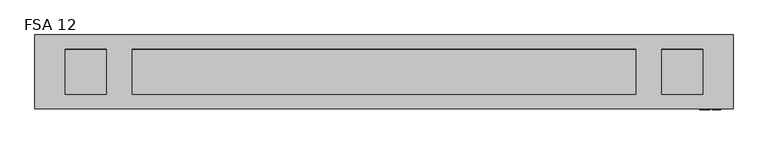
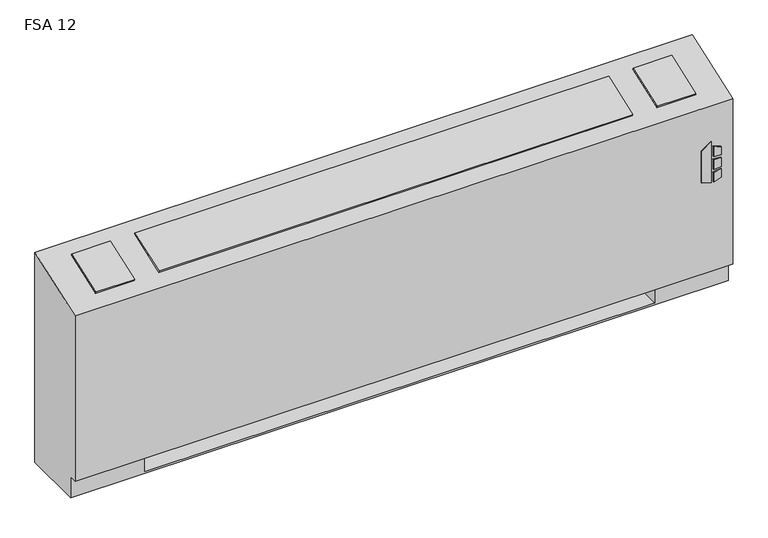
"""IFC4 building model written with IfcOpenShell, lengths in millimetres: proxy geometry, Vertical_Fan_Coil_Unit_-_FSA_-_IEC_-_4-Pipe_TS-FR_RH_2022 : FSA 12."""

from ifc_helpers import new_model, si_unit, point, frame, frame_2d, origin, place, context, project, spatial, polyline, circle_curve, trimmed, segment, composite_curve, outline, extrude, source, transform, mapped, element, save
from ifc_brep_helpers import plane_surface, revolved_surface, advanced_brep


def fsa_12_ab068744(model_context):
    return source(origin(), model_context, "Body", "SolidModel", [
        extrude(outline(polyline([(391.6086829, 1128.7868862), (381.6606126, 1160.9602728), (523.831537, 1160.9602728), (500.8095309, 1128.7868862), (391.6086829, 1128.7868862)])), frame((0.0, 12.7, 0.0), z_axis=(0.0, 1.0, 0.0), x_axis=(0.0, 0.0, 1.0)), (0.0, 0.0, 1.0), 3.175),
        extrude(outline(polyline([(470.6079683, 1167.7186058), (467.4055757, 1193.8), (496.6344168, 1193.8), (504.6988318, 1167.7186058), (470.6079683, 1167.7186058)])), frame((0.0, 12.7, 0.0), z_axis=(0.0, 1.0, 0.0), x_axis=(0.0, 0.0, 1.0)), (0.0, 0.0, 1.0), 3.175),
        extrude(outline(polyline([(418.7444414, 1193.8), (415.0789404, 1167.7186058), (381.6606126, 1167.7186058), (390.2948498, 1193.8), (418.7444414, 1193.8)])), frame((0.0, 12.7, 0.0), z_axis=(0.0, 1.0, 0.0), x_axis=(0.0, 0.0, 1.0)), (0.0, 0.0, 1.0), 3.175),
        extrude(outline(polyline([(458.0596028, 1193.8), (460.3414292, 1167.7186058), (424.4038806, 1167.7186058), (427.1451456, 1193.8), (458.0596028, 1193.8)])), frame((0.0, 12.7, 0.0), z_axis=(0.0, 1.0, 0.0), x_axis=(0.0, 0.0, 1.0)), (0.0, 0.0, 1.0), 3.175),
        extrude(outline(polyline([(-806.45, 81.534), (-806.45, 223.266), (-685.8, 223.266), (-685.8, 81.534), (-806.45, 81.534)])), frame((0.0, 0.0, 327.025), z_axis=(0.0, 0.0, 1.0), x_axis=(1.0, 0.0, 0.0)), (0.0, 0.0, 1.0), 260.35),
        extrude(outline(composite_curve([segment(trimmed(circle_curve(frame_2d((1054.1, 130.175)), 9.525), [point((1044.575, 130.175))], [point((1063.625, 130.175))], False, "CARTESIAN"), True, "CONTINUOUS"), segment(trimmed(circle_curve(frame_2d((1054.1, 130.175)), 9.525), [point((1063.625, 130.175))], [point((1044.575, 130.175))], False, "CARTESIAN"), True, "CONTINUOUS")], self_intersect=False)), frame((0.0, 0.0, 101.6), z_axis=(0.0, 0.0, 1.0), x_axis=(1.0, 0.0, 0.0)), (0.0, 0.0, 1.0), 25.4),
        extrude(outline(polyline([(1155.7, 196.85), (1155.7, 63.5), (990.6, 63.5), (990.6, 196.85), (1155.7, 196.85)])), frame((0.0, 0.0, 127.0), z_axis=(0.0, 0.0, 1.0), x_axis=(1.0, 0.0, 0.0)), (0.0, 0.0, 1.0), 50.8),
        extrude(outline(polyline([(0.0, -146.0500001), (0.0, 0.0), (127.0, 0.0), (127.0, -146.0500001), (0.0, -146.0500001)])), frame((-832.993, 200.4217127, 714.3418685), z_axis=(0.0, -0.3396444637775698, 0.9405538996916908), x_axis=(1.0, 0.0, 0.0)), (0.0, 0.0, 1.0), 6.35),
        extrude(outline(polyline([(0.0, -146.0500001), (0.0, 0.0), (1555.75, 0.0), (1555.75, -146.0500001), (0.0, -146.0500001)])), frame((930.275, 63.0538156, 664.7367945), z_axis=(0.0, -0.33964446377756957, 0.9405538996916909), x_axis=(-1.0, 0.0, 0.0)), (0.0, 0.0, 1.0), 6.35),
        extrude(outline(polyline([(0.0, -146.0500001), (0.0, 0.0), (127.0, 0.0), (127.0, -146.0500001), (0.0, -146.0500001)])), frame((1137.793, 63.0538156, 664.7367945), z_axis=(0.0, -0.3396444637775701, 0.9405538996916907), x_axis=(-1.0, 0.0, 0.0)), (0.0, 0.0, 1.0), 6.35),
        extrude(outline(composite_curve([segment(trimmed(circle_curve(frame_2d((109.0168, 457.2)), 7.9375), [point((109.0168, 465.1375))], [point((109.0168, 449.2625))], False, "CARTESIAN"), True, "CONTINUOUS"), segment(trimmed(circle_curve(frame_2d((109.0168, 457.2)), 7.9375), [point((109.0168, 449.2625))], [point((109.0168, 465.1375))], False, "CARTESIAN"), True, "CONTINUOUS")], self_intersect=False)), frame((990.6, 0.0, 0.0), z_axis=(1.0, 0.0, 0.0), x_axis=(0.0, 1.0, 0.0)), (0.0, 0.0, 1.0), 50.8),
        extrude(outline(composite_curve([segment(trimmed(circle_curve(frame_2d((172.085, 460.0194)), 7.9375), [point((172.085, 467.9569))], [point((172.085, 452.0819))], False, "CARTESIAN"), True, "CONTINUOUS"), segment(trimmed(circle_curve(frame_2d((172.085, 460.0194)), 7.9375), [point((172.085, 452.0819))], [point((172.085, 467.9569))], False, "CARTESIAN"), True, "CONTINUOUS")], self_intersect=False)), frame((990.6, 0.0, 0.0), z_axis=(1.0, 0.0, 0.0), x_axis=(0.0, 1.0, 0.0)), (0.0, 0.0, 1.0), 50.8),
        extrude(outline(composite_curve([segment(trimmed(circle_curve(frame_2d((130.175, 554.99)), 7.9502), [point((130.175, 562.9402))], [point((130.175, 547.0398))], False, "CARTESIAN"), True, "CONTINUOUS"), segment(trimmed(circle_curve(frame_2d((130.175, 554.99)), 7.9502), [point((130.175, 547.0398))], [point((130.175, 562.9402))], False, "CARTESIAN"), True, "CONTINUOUS")], self_intersect=False)), frame((990.6, 0.0, 0.0), z_axis=(1.0, 0.0, 0.0), x_axis=(0.0, 1.0, 0.0)), (0.0, 0.0, 1.0), 50.8),
        extrude(outline(composite_curve([segment(trimmed(circle_curve(frame_2d((53.975, 416.56)), 7.9502), [point((53.975, 424.5102))], [point((53.975, 408.6098))], False, "CARTESIAN"), True, "CONTINUOUS"), segment(trimmed(circle_curve(frame_2d((53.975, 416.56)), 7.9502), [point((53.975, 408.6098))], [point((53.975, 424.5102))], False, "CARTESIAN"), True, "CONTINUOUS")], self_intersect=False)), frame((990.6, 0.0, 0.0), z_axis=(1.0, 0.0, 0.0), x_axis=(0.0, 1.0, 0.0)), (0.0, 0.0, 1.0), 50.8),
        advanced_brep(
        [(-927.1, 244.475, 0.0), (1231.9, 244.475, 0.0), (1231.9, 41.275, 0.0), (-927.1, 41.275, 0.0), (-927.1, 244.475, 730.25), (1231.9, 244.475, 730.25), (990.6, 244.475, 73.025), (1219.2, 244.475, 73.025), (1219.2, 244.475, 654.05), (990.6, 244.475, 654.05), (990.6, 244.475, 414.8650565), (1019.175, 244.475, 414.8650565), (1019.175, 244.475, 385.2349435), (990.6, 244.475, 385.2349435), (990.6, 244.475, 287.3375), (1019.175, 244.475, 287.3375), (1019.175, 244.475, 258.7625), (990.6, 244.475, 258.7625), (990.6, 244.475, 141.2875), (1019.175, 244.475, 141.2875), (1019.175, 244.475, 112.7125), (990.6, 244.475, 112.7125), (-685.8, 244.475, 654.05), (-914.4, 244.475, 654.05), (-914.4, 244.475, 73.025), (-685.8, 244.475, 73.025), (-685.8, 244.475, 112.7125), (-714.375, 244.475, 112.7125), (-714.375, 244.475, 141.2875), (-685.8, 244.475, 141.2875), (-685.8, 244.475, 258.7625), (-714.375, 244.475, 258.7625), (-714.375, 244.475, 287.3375), (-685.8, 244.475, 287.3375), (-685.8, 244.475, 385.2349435), (-714.375, 244.475, 385.2349435), (-714.375, 244.475, 414.8650565), (-685.8, 244.475, 414.8650565), (1008.8626, 244.475, 127.0), (997.7374, 244.475, 127.0), (1008.8626, 244.475, 400.05), (997.7374, 244.475, 400.05), (1008.8626, 244.475, 273.05), (997.7374, 244.475, 273.05), (-692.9374, 244.475, 127.0), (-704.0626, 244.475, 127.0), (-692.9374, 244.475, 273.05), (-704.0626, 244.475, 273.05), (-692.9374, 244.475, 400.05), (-704.0626, 244.475, 400.05), (-927.1, 41.275, 73.025), (-927.1, 15.875, 73.025), (-927.1, 15.875, 647.7), (1231.9, 15.875, 73.025), (1231.9, 15.875, 647.7), (1231.9, 41.275, 73.025), (-685.8, 41.275, 73.025), (-685.8, 225.425, 73.025), (990.6, 225.425, 73.025), (990.6, 41.275, 73.025), (990.6, 41.275, 6.35), (-685.8, 41.275, 6.35), (990.6, 41.275, 654.05), (1219.2, 41.275, 654.05), (1219.2, 41.275, 73.025), (990.6, 41.275, 73.025), (-685.8, 41.275, 654.05), (-685.8, 41.275, 73.025), (-914.4, 41.275, 73.025), (-914.4, 41.275, 654.05), (990.6, 225.425, 73.025), (990.6, 238.125, 112.7125), (990.6, 238.125, 141.2875), (990.6, 238.125, 258.7625), (990.6, 238.125, 287.3375), (990.6, 238.125, 385.2349435), (990.6, 238.125, 414.8650565), (-685.8, 225.425, 73.025), (-685.8, 238.125, 414.8650565), (-685.8, 238.125, 385.2349435), (-685.8, 238.125, 287.3375), (-685.8, 238.125, 258.7625), (-685.8, 238.125, 141.2875), (-685.8, 238.125, 112.7125), (-685.8, 225.425, 6.35), (990.6, 225.425, 6.35), (1019.175, 238.125, 112.7125), (1019.175, 238.125, 141.2875), (997.7374, 238.125, 127.0), (1008.8626, 238.125, 127.0), (1019.175, 238.125, 258.7625), (1019.175, 238.125, 287.3375), (997.7374, 238.125, 273.05), (1008.8626, 238.125, 273.05), (1019.175, 238.125, 385.2349435), (1019.175, 238.125, 414.8650565), (997.7374, 238.125, 400.05), (1008.8626, 238.125, 400.05), (-714.375, 238.125, 141.2875), (-714.375, 238.125, 112.7125), (-704.0626, 238.125, 127.0), (-692.9374, 238.125, 127.0), (-714.375, 238.125, 287.3375), (-714.375, 238.125, 258.7625), (-704.0626, 238.125, 273.05), (-692.9374, 238.125, 273.05), (-714.375, 238.125, 414.8650565), (-714.375, 238.125, 385.2349435), (-704.0626, 238.125, 400.05), (-692.9374, 238.125, 400.05)],
        [
            (0, 1),
            (1, 2),
            (2, 3),
            (3, 0),
            (0, 4),
            (4, 5),
            (5, 1),
            (6, 7),
            (7, 8),
            (8, 9),
            (9, 10),
            (10, 11),
            (11, 12),
            (12, 13),
            (13, 14),
            (14, 15),
            (15, 16),
            (16, 17),
            (17, 18),
            (18, 19),
            (19, 20),
            (20, 21),
            (21, 6),
            (22, 23),
            (23, 24),
            (24, 25),
            (25, 26),
            (26, 27),
            (27, 28),
            (28, 29),
            (29, 30),
            (30, 31),
            (31, 32),
            (32, 33),
            (33, 34),
            (34, 35),
            (35, 36),
            (36, 37),
            (37, 22),
            (38, 39, circle_curve(frame((1003.3, 244.475, 127.0), z_axis=(0.0, -1.0, 0.0), x_axis=(-1.0, 0.0, 0.0)), 5.5626)),
            (39, 38, circle_curve(frame((1003.3, 244.475, 127.0), z_axis=(0.0, -1.0, 0.0), x_axis=(-1.0, 0.0, 0.0)), 5.5626)),
            (40, 41, circle_curve(frame((1003.3, 244.475, 400.05), z_axis=(0.0, -1.0, 0.0), x_axis=(-1.0, 0.0, 0.0)), 5.5626)),
            (41, 40, circle_curve(frame((1003.3, 244.475, 400.05), z_axis=(0.0, -1.0, 0.0), x_axis=(-1.0, 0.0, 0.0)), 5.5626)),
            (42, 43, circle_curve(frame((1003.3, 244.475, 273.05), z_axis=(0.0, -1.0, 0.0), x_axis=(-1.0, 0.0, 0.0)), 5.5626)),
            (43, 42, circle_curve(frame((1003.3, 244.475, 273.05), z_axis=(0.0, -1.0, 0.0), x_axis=(-1.0, 0.0, 0.0)), 5.5626)),
            (44, 45, circle_curve(frame((-698.5, 244.475, 127.0), z_axis=(0.0, -1.0, 0.0), x_axis=(-1.0, 0.0, 0.0)), 5.5626)),
            (45, 44, circle_curve(frame((-698.5, 244.475, 127.0), z_axis=(0.0, -1.0, 0.0), x_axis=(-1.0, 0.0, 0.0)), 5.5626)),
            (46, 47, circle_curve(frame((-698.5, 244.475, 273.05), z_axis=(0.0, -1.0, 0.0), x_axis=(-1.0, 0.0, 0.0)), 5.5626)),
            (47, 46, circle_curve(frame((-698.5, 244.475, 273.05), z_axis=(0.0, -1.0, 0.0), x_axis=(-1.0, 0.0, 0.0)), 5.5626)),
            (48, 49, circle_curve(frame((-698.5, 244.475, 400.05), z_axis=(0.0, -1.0, 0.0), x_axis=(-1.0, 0.0, 0.0)), 5.5626)),
            (49, 48, circle_curve(frame((-698.5, 244.475, 400.05), z_axis=(0.0, -1.0, 0.0), x_axis=(-1.0, 0.0, 0.0)), 5.5626)),
            (3, 50),
            (50, 51),
            (51, 52),
            (52, 4),
            (51, 53),
            (53, 54),
            (54, 52),
            (5, 54),
            (53, 55),
            (55, 2),
            (50, 56),
            (56, 57),
            (57, 58),
            (58, 59),
            (59, 55),
            (59, 60),
            (60, 61),
            (61, 56),
            (62, 63),
            (63, 64),
            (64, 65),
            (65, 62),
            (66, 67),
            (67, 68),
            (68, 69),
            (69, 66),
            (65, 70),
            (70, 6),
            (21, 71),
            (71, 72),
            (72, 18),
            (17, 73),
            (73, 74),
            (74, 14),
            (13, 75),
            (75, 76),
            (76, 10),
            (9, 62),
            (64, 7),
            (63, 8),
            (69, 23),
            (22, 66),
            (68, 24),
            (67, 77),
            (77, 25),
            (37, 78),
            (78, 79),
            (79, 34),
            (33, 80),
            (80, 81),
            (81, 30),
            (29, 82),
            (82, 83),
            (83, 26),
            (57, 84),
            (84, 85),
            (85, 58),
            (85, 60),
            (84, 61),
            (71, 86),
            (86, 87),
            (87, 72),
            (88, 89, circle_curve(frame((1003.3, 238.125, 127.0), z_axis=(0.0, 1.0, 0.0), x_axis=(-1.0, 0.0, 0.0)), 5.5626)),
            (89, 88, circle_curve(frame((1003.3, 238.125, 127.0), z_axis=(0.0, 1.0, 0.0), x_axis=(-1.0, 0.0, 0.0)), 5.5626)),
            (73, 90),
            (90, 91),
            (91, 74),
            (92, 93, circle_curve(frame((1003.3, 238.125, 273.05), z_axis=(0.0, 1.0, 0.0), x_axis=(-1.0, 0.0, 0.0)), 5.5626)),
            (93, 92, circle_curve(frame((1003.3, 238.125, 273.05), z_axis=(0.0, 1.0, 0.0), x_axis=(-1.0, 0.0, 0.0)), 5.5626)),
            (75, 94),
            (94, 95),
            (95, 76),
            (96, 97, circle_curve(frame((1003.3, 238.125, 400.05), z_axis=(0.0, 1.0, 0.0), x_axis=(-1.0, 0.0, 0.0)), 5.5626)),
            (97, 96, circle_curve(frame((1003.3, 238.125, 400.05), z_axis=(0.0, 1.0, 0.0), x_axis=(-1.0, 0.0, 0.0)), 5.5626)),
            (98, 99),
            (99, 83),
            (82, 98),
            (100, 101, circle_curve(frame((-698.5, 238.125, 127.0), z_axis=(0.0, 1.0, 0.0), x_axis=(-1.0, 0.0, 0.0)), 5.5626)),
            (101, 100, circle_curve(frame((-698.5, 238.125, 127.0), z_axis=(0.0, 1.0, 0.0), x_axis=(-1.0, 0.0, 0.0)), 5.5626)),
            (102, 103),
            (103, 81),
            (80, 102),
            (104, 105, circle_curve(frame((-698.5, 238.125, 273.05), z_axis=(0.0, 1.0, 0.0), x_axis=(-1.0, 0.0, 0.0)), 5.5626)),
            (105, 104, circle_curve(frame((-698.5, 238.125, 273.05), z_axis=(0.0, 1.0, 0.0), x_axis=(-1.0, 0.0, 0.0)), 5.5626)),
            (106, 107),
            (107, 79),
            (78, 106),
            (108, 109, circle_curve(frame((-698.5, 238.125, 400.05), z_axis=(0.0, 1.0, 0.0), x_axis=(-1.0, 0.0, 0.0)), 5.5626)),
            (109, 108, circle_curve(frame((-698.5, 238.125, 400.05), z_axis=(0.0, 1.0, 0.0), x_axis=(-1.0, 0.0, 0.0)), 5.5626)),
            (87, 19),
            (86, 20),
            (91, 15),
            (90, 16),
            (95, 11),
            (94, 12),
            (28, 98),
            (99, 27),
            (32, 102),
            (103, 31),
            (36, 106),
            (107, 35),
            (88, 39),
            (38, 89),
            (96, 41),
            (40, 97),
            (92, 43),
            (42, 93),
            (100, 45),
            (44, 101),
            (104, 47),
            (46, 105),
            (108, 49),
            (48, 109),
        ],
        [
            plane_surface(frame((-927.1, 244.475, 0.0), z_axis=(0.0, 0.0, -1.0), x_axis=(1.0, 0.0, 0.0))),
            plane_surface(frame((1231.9, 244.475, 730.25), z_axis=(0.0, 1.0, 0.0), x_axis=(0.0, 0.0, -1.0))),
            plane_surface(frame((-927.1, 244.475, 730.25), z_axis=(-1.0, 0.0, 0.0), x_axis=(0.0, 0.0, -1.0))),
            plane_surface(frame((-927.1, 15.875, 730.25), z_axis=(0.0, -1.0, 0.0), x_axis=(0.0, 0.0, -1.0))),
            plane_surface(frame((1231.9, 15.875, 730.25), z_axis=(1.0, 0.0, 0.0), x_axis=(0.0, 0.0, -1.0))),
            plane_surface(frame((-927.1, 15.875, 73.025), z_axis=(0.0, 0.0, -1.0), x_axis=(1.0, 0.0, 0.0))),
            plane_surface(frame((-927.1, 41.275, 73.025), z_axis=(0.0, -1.0, 0.0), x_axis=(1.0, 0.0, 0.0))),
            plane_surface(frame((990.6, 41.275, 654.05), z_axis=(0.0, 1.0, 0.0), x_axis=(0.0, 0.0, -1.0))),
            plane_surface(frame((990.6, 41.275, 654.05), z_axis=(1.0, 0.0, 0.0), x_axis=(0.0, 1.0, 0.0))),
            plane_surface(frame((990.6, 41.275, 73.025), z_axis=(0.0, 0.0, 1.0), x_axis=(0.0, 1.0, 0.0))),
            plane_surface(frame((1219.2, 41.275, 73.025), z_axis=(-1.0, 0.0, 0.0), x_axis=(0.0, 1.0, 0.0))),
            plane_surface(frame((1219.2, 41.275, 654.05), z_axis=(0.0, 0.0, -1.0), x_axis=(0.0, 1.0, 0.0))),
            plane_surface(frame((-685.8, 41.275, 654.05), z_axis=(0.0, 0.0, -1.0), x_axis=(0.0, 1.0, 0.0))),
            plane_surface(frame((-914.4, 41.275, 654.05), z_axis=(1.0, 0.0, 0.0), x_axis=(0.0, 1.0, 0.0))),
            plane_surface(frame((-914.4, 41.275, 73.025), z_axis=(0.0, 0.0, 1.0), x_axis=(0.0, 1.0, 0.0))),
            plane_surface(frame((-685.8, 41.275, 73.025), z_axis=(-1.0, 0.0, 0.0), x_axis=(0.0, 1.0, 0.0))),
            plane_surface(frame((990.6, 225.425, 73.025), z_axis=(0.0, -1.0, 0.0), x_axis=(0.0, 0.0, -1.0))),
            plane_surface(frame((990.6, 225.425, 73.025), z_axis=(-1.0, 0.0, 0.0), x_axis=(0.0, -1.0, 0.0))),
            plane_surface(frame((990.6, 225.425, 6.35), z_axis=(0.0, 0.0, 1.0), x_axis=(0.0, -1.0, 0.0))),
            plane_surface(frame((-685.8, 225.425, 6.35), z_axis=(1.0, 0.0, 0.0), x_axis=(0.0, -1.0, 0.0))),
            plane_surface(frame((1019.175, 238.125, 141.2875), z_axis=(0.0, -1.0, 0.0), x_axis=(-1.0, 0.0, 0.0))),
            plane_surface(frame((990.6, 244.475, 141.2875), z_axis=(0.0, 0.0, 1.0), x_axis=(0.0, -1.0, 0.0))),
            plane_surface(frame((1019.175, 244.475, 141.2875), z_axis=(1.0, 0.0, 0.0), x_axis=(0.0, -1.0, 0.0))),
            plane_surface(frame((1019.175, 244.475, 112.7125), z_axis=(0.0, 0.0, -1.0), x_axis=(0.0, -1.0, 0.0))),
            plane_surface(frame((990.6, 244.475, 287.3375), z_axis=(0.0, 0.0, 1.0), x_axis=(0.0, -1.0, 0.0))),
            plane_surface(frame((1019.175, 244.475, 287.3375), z_axis=(1.0, 0.0, 0.0), x_axis=(0.0, -1.0, 0.0))),
            plane_surface(frame((1019.175, 244.475, 258.7625), z_axis=(0.0, 0.0, -1.0), x_axis=(0.0, -1.0, 0.0))),
            plane_surface(frame((990.6, 244.475, 414.8650565), z_axis=(0.0, 0.0, 1.0), x_axis=(0.0, -1.0, 0.0))),
            plane_surface(frame((1019.175, 244.475, 414.8650565), z_axis=(1.0, 0.0, 0.0), x_axis=(0.0, -1.0, 0.0))),
            plane_surface(frame((1019.175, 244.475, 385.2349435), z_axis=(0.0, 0.0, -1.0), x_axis=(0.0, -1.0, 0.0))),
            plane_surface(frame((-714.375, 244.475, 141.2875), z_axis=(0.0, 0.0, 1.0), x_axis=(0.0, -1.0, 0.0))),
            plane_surface(frame((-685.8, 244.475, 112.7125), z_axis=(0.0, 0.0, -1.0), x_axis=(0.0, -1.0, 0.0))),
            plane_surface(frame((-714.375, 244.475, 112.7125), z_axis=(-1.0, 0.0, 0.0), x_axis=(0.0, -1.0, 0.0))),
            plane_surface(frame((-714.375, 244.475, 287.3375), z_axis=(0.0, 0.0, 1.0), x_axis=(0.0, -1.0, 0.0))),
            plane_surface(frame((-685.8, 244.475, 258.7625), z_axis=(0.0, 0.0, -1.0), x_axis=(0.0, -1.0, 0.0))),
            plane_surface(frame((-714.375, 244.475, 258.7625), z_axis=(-1.0, 0.0, 0.0), x_axis=(0.0, -1.0, 0.0))),
            plane_surface(frame((-714.375, 244.475, 414.8650565), z_axis=(0.0, 0.0, 1.0), x_axis=(0.0, -1.0, 0.0))),
            plane_surface(frame((-685.8, 244.475, 385.2349435), z_axis=(0.0, 0.0, -1.0), x_axis=(0.0, -1.0, 0.0))),
            plane_surface(frame((-714.375, 244.475, 385.2349435), z_axis=(-1.0, 0.0, 0.0), x_axis=(0.0, -1.0, 0.0))),
            revolved_surface(polyline([(997.7374, 238.125, 127.0), (997.7374, 244.475, 127.0)]), (1003.3, 244.475, 127.0), (0.0, -1.0, 0.0)),
            revolved_surface(polyline([(997.7374, 238.125, 400.05), (997.7374, 244.475, 400.05)]), (1003.3, 244.475, 400.05), (0.0, -1.0, 0.0)),
            revolved_surface(polyline([(997.7374, 238.125, 273.05), (997.7374, 244.475, 273.05)]), (1003.3, 244.475, 273.05), (0.0, -1.0, 0.0)),
            revolved_surface(polyline([(-704.0626, 238.125, 127.0), (-704.0626, 244.475, 127.0)]), (-698.5, 244.475, 127.0), (0.0, -1.0, 0.0)),
            revolved_surface(polyline([(-704.0626, 238.125, 273.05), (-704.0626, 244.475, 273.05)]), (-698.5, 244.475, 273.05), (0.0, -1.0, 0.0)),
            revolved_surface(polyline([(-704.0626, 238.125, 400.05), (-704.0626, 244.475, 400.05)]), (-698.5, 244.475, 400.05), (0.0, -1.0, 0.0)),
            plane_surface(frame((-927.1, 244.475, 730.25), z_axis=(0.0, -0.33964446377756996, 0.9405538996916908), x_axis=(1.0, 0.0, 0.0))),
        ],
        [
            (0, [[1, 2, 3, 4]]),
            (1, [[-1, 5, 6, 7], [8, 9, 10, 11, 12, 13, 14, 15, 16, 17, 18, 19, 20, 21, 22, 23], [24, 25, 26, 27, 28, 29, 30, 31, 32, 33, 34, 35, 36, 37, 38, 39], [40, 41], [42, 43], [44, 45], [46, 47], [48, 49], [50, 51]]),
            (2, [[-5, -4, 52, 53, 54, 55]]),
            (3, [[56, 57, 58, -54]]),
            (4, [[-7, 59, -57, 60, 61, -2]]),
            (5, [[-53, 62, 63, 64, 65, 66, -60, -56]]),
            (6, [[-3, -61, -66, 67, 68, 69, -62, -52]]),
            (7, [[70, 71, 72, 73]]),
            (7, [[74, 75, 76, 77]]),
            (8, [[-73, 78, 79, -23, 80, 81, 82, -19, 83, 84, 85, -15, 86, 87, 88, -11, 89]]),
            (9, [[-72, 90, -8, -79, -78]]),
            (10, [[-71, 91, -9, -90]]),
            (11, [[-70, -89, -10, -91]]),
            (12, [[-77, 92, -24, 93]]),
            (13, [[-76, 94, -25, -92]]),
            (14, [[-75, 95, 96, -26, -94]]),
            (15, [[-74, -93, -39, 97, 98, 99, -35, 100, 101, 102, -31, 103, 104, 105, -27, -96, -95]]),
            (16, [[-64, 106, 107, 108]]),
            (17, [[-108, 109, -67, -65]]),
            (18, [[-107, 110, -68, -109]]),
            (19, [[-106, -63, -69, -110]]),
            (20, [[111, 112, 113, -81], [114, 115]]),
            (20, [[116, 117, 118, -84], [119, 120]]),
            (20, [[121, 122, 123, -87], [124, 125]]),
            (20, [[126, 127, -104, 128], [129, 130]]),
            (20, [[131, 132, -101, 133], [134, 135]]),
            (20, [[136, 137, -98, 138], [139, 140]]),
            (21, [[-113, 141, -20, -82]]),
            (22, [[-112, 142, -21, -141]]),
            (23, [[-111, -80, -22, -142]]),
            (24, [[-118, 143, -16, -85]]),
            (25, [[-117, 144, -17, -143]]),
            (26, [[-116, -83, -18, -144]]),
            (27, [[-123, 145, -12, -88]]),
            (28, [[-122, 146, -13, -145]]),
            (29, [[-121, -86, -14, -146]]),
            (30, [[-128, -103, -30, 147]]),
            (31, [[-127, 148, -28, -105]]),
            (32, [[-126, -147, -29, -148]]),
            (33, [[-133, -100, -34, 149]]),
            (34, [[-132, 150, -32, -102]]),
            (35, [[-131, -149, -33, -150]]),
            (36, [[-138, -97, -38, 151]]),
            (37, [[-137, 152, -36, -99]]),
            (38, [[-136, -151, -37, -152]]),
            (39, [[153, -40, 154, -114]]),
            (39, [[-153, -115, -154, -41]]),
            (40, [[155, -42, 156, -124]]),
            (40, [[-155, -125, -156, -43]]),
            (41, [[157, -44, 158, -119]]),
            (41, [[-157, -120, -158, -45]]),
            (42, [[159, -46, 160, -129]]),
            (42, [[-159, -130, -160, -47]]),
            (43, [[161, -48, 162, -134]]),
            (43, [[-161, -135, -162, -49]]),
            (44, [[163, -50, 164, -139]]),
            (44, [[-163, -140, -164, -51]]),
            (45, [[-6, -55, -58, -59]]),
        ],
    ),
    ])


if __name__ == "__main__":
    model = new_model("IFC4")
    model_context = context("Model", 3, world=origin())
    ifc_project = project(units=[si_unit("LENGTHUNIT", "METRE", prefix="MILLI")], contexts=[model_context])
    site = spatial("IfcSite", under=ifc_project)
    building = spatial("IfcBuilding", under=site)
    placement = place(None, origin())
    fsa_12_shape = fsa_12_ab068744(model_context)
    element("IfcBuildingElementProxy", 1, Name="Vertical_Fan_Coil_Unit_-_FSA_-_IEC_-_4-Pipe_TS-FR_RH_2022 : FSA 12", ObjectType="Vertical_Fan_Coil_Unit_-_FSA_-_IEC_-_4-Pipe_TS-FR_RH_2022 : FSA 12", at=placement, inside=building, context=model_context, shape_type="MappedRepresentation", body=[
        mapped(fsa_12_shape, transform((0.0, 0.0, 0.0), x_axis=(1.0, 0.0, 0.0), y_axis=(0.0, 1.0, 0.0), z_axis=(0.0, 0.0, 1.0))),
    ])
    save(model, "model.ifc")
